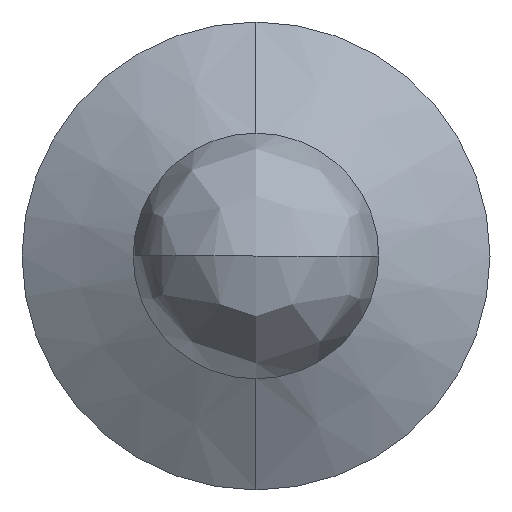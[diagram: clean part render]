
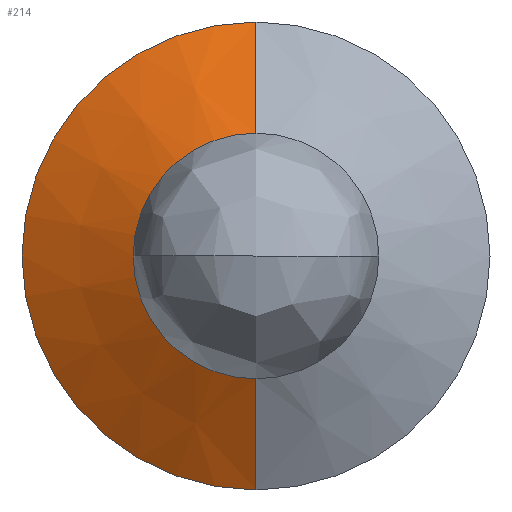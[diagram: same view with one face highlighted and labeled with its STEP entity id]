
A CAD part, left-side view. The second image highlights one B-rep face of the part: STEP entity #214.
In plain terms, the highlighted conical face has half-angle 60 degrees and reference radius 0.267 mm.
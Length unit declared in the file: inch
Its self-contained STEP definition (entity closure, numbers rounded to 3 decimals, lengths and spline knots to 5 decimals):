
#31 = AXIS2_PLACEMENT_3D ( 'NONE', #385, #290, #70 ) ;
#32 = CARTESIAN_POINT ( 'NONE',  ( 0.16, 0., 0. ) ) ;
#57 = EDGE_CURVE ( 'NONE', #395, #83, #82, .T. ) ;
#69 = DIRECTION ( 'NONE',  ( 0., 0., -1. ) ) ;
#70 = DIRECTION ( 'NONE',  ( 0., 0., -1. ) ) ;
#82 = LINE ( 'NONE', #331, #236 ) ;
#83 = VERTEX_POINT ( 'NONE', #211 ) ;
#89 = DIRECTION ( 'NONE',  ( 1., 0., 0. ) ) ;
#90 = CARTESIAN_POINT ( 'NONE',  ( 0.15452, 0., 0. ) ) ;
#107 = ORIENTED_EDGE ( 'NONE', *, *, #370, .F. ) ;
#122 = FACE_OUTER_BOUND ( 'NONE', #244, .T. ) ;
#144 = ORIENTED_EDGE ( 'NONE', *, *, #57, .T. ) ;
#150 = AXIS2_PLACEMENT_3D ( 'NONE', #90, #218, #382 ) ;
#171 = VECTOR ( 'NONE', #246, 39.37008 ) ;
#187 = CARTESIAN_POINT ( 'NONE',  ( 0.15452, 0., -0.0105 ) ) ;
#197 = VERTEX_POINT ( 'NONE', #187 ) ;
#200 = VERTEX_POINT ( 'NONE', #315 ) ;
#211 = CARTESIAN_POINT ( 'NONE',  ( 0.16, 0., 0.02 ) ) ;
#214 = ADVANCED_FACE ( 'NONE', ( #122 ), #249, .T. ) ;
#218 = DIRECTION ( 'NONE',  ( 1., 0., 0. ) ) ;
#230 = AXIS2_PLACEMENT_3D ( 'NONE', #32, #89, #69 ) ;
#235 = EDGE_CURVE ( 'NONE', #197, #395, #326, .T. ) ;
#236 = VECTOR ( 'NONE', #408, 39.37008 ) ;
#244 = EDGE_LOOP ( 'NONE', ( #360, #144, #276, #107 ) ) ;
#246 = DIRECTION ( 'NONE',  ( 0.5, 0., -0.866 ) ) ;
#249 = CONICAL_SURFACE ( 'NONE', #31, 0.0105, 1.047 ) ;
#259 = CARTESIAN_POINT ( 'NONE',  ( 0.15452, 0., 0.0105 ) ) ;
#276 = ORIENTED_EDGE ( 'NONE', *, *, #320, .F. ) ;
#280 = LINE ( 'NONE', #409, #171 ) ;
#290 = DIRECTION ( 'NONE',  ( 1., 0., 0. ) ) ;
#293 = CIRCLE ( 'NONE', #230, 0.02 ) ;
#315 = CARTESIAN_POINT ( 'NONE',  ( 0.16, 0., -0.02 ) ) ;
#320 = EDGE_CURVE ( 'NONE', #200, #83, #293, .T. ) ;
#326 = CIRCLE ( 'NONE', #150, 0.0105 ) ;
#331 = CARTESIAN_POINT ( 'NONE',  ( 0.15452, 0., 0.0105 ) ) ;
#360 = ORIENTED_EDGE ( 'NONE', *, *, #235, .T. ) ;
#370 = EDGE_CURVE ( 'NONE', #197, #200, #280, .T. ) ;
#382 = DIRECTION ( 'NONE',  ( 0., 0., 1. ) ) ;
#385 = CARTESIAN_POINT ( 'NONE',  ( 0.15452, 0., 0. ) ) ;
#395 = VERTEX_POINT ( 'NONE', #259 ) ;
#408 = DIRECTION ( 'NONE',  ( 0.5, 0., 0.866 ) ) ;
#409 = CARTESIAN_POINT ( 'NONE',  ( 0.15452, 0., -0.0105 ) ) ;
